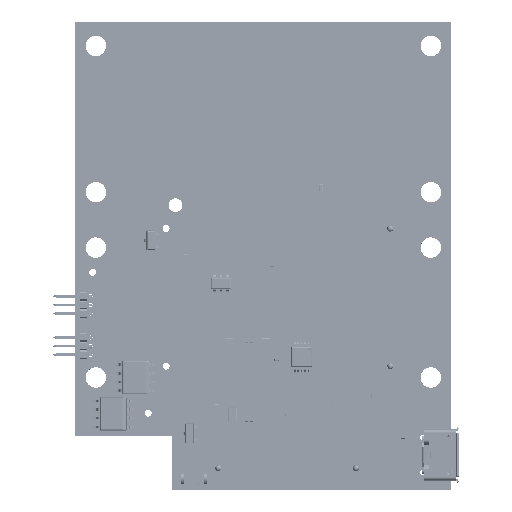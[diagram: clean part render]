
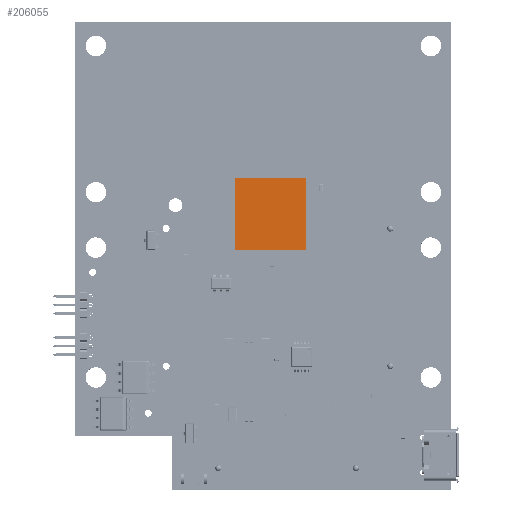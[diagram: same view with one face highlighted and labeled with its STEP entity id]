
A CAD part, top view. The second image highlights one B-rep face of the part: STEP entity #206055.
In plain terms, the highlighted planar face has unit normal (0, 0, 1) as drawn and (0, 1, 0) by its records, which use the part's own axes.
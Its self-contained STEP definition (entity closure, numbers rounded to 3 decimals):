
#205965 = VERTEX_POINT('',#205966);
#205966 = CARTESIAN_POINT('',(-5.2,0.15,-5.2));
#205972 = EDGE_CURVE('',#205965,#205973,#205975,.T.);
#205973 = VERTEX_POINT('',#205974);
#205974 = CARTESIAN_POINT('',(-5.2,0.15,5.2));
#205975 = LINE('',#205976,#205977);
#205976 = CARTESIAN_POINT('',(-5.2,0.15,-5.2));
#205977 = VECTOR('',#205978,1.);
#205978 = DIRECTION('',(0.,0.,1.));
#205996 = VERTEX_POINT('',#205997);
#205997 = CARTESIAN_POINT('',(5.2,0.15,-5.2));
#206003 = EDGE_CURVE('',#205996,#205965,#206004,.T.);
#206004 = LINE('',#206005,#206006);
#206005 = CARTESIAN_POINT('',(5.2,0.15,-5.2));
#206006 = VECTOR('',#206007,1.);
#206007 = DIRECTION('',(-1.,0.,0.));
#206020 = VERTEX_POINT('',#206021);
#206021 = CARTESIAN_POINT('',(5.2,0.15,5.2));
#206027 = EDGE_CURVE('',#206020,#205996,#206028,.T.);
#206028 = LINE('',#206029,#206030);
#206029 = CARTESIAN_POINT('',(5.2,0.15,5.2));
#206030 = VECTOR('',#206031,1.);
#206031 = DIRECTION('',(0.,0.,-1.));
#206044 = EDGE_CURVE('',#205973,#206020,#206045,.T.);
#206045 = LINE('',#206046,#206047);
#206046 = CARTESIAN_POINT('',(-5.2,0.15,5.2));
#206047 = VECTOR('',#206048,1.);
#206048 = DIRECTION('',(1.,0.,0.));
#206055 = ADVANCED_FACE('',(#206056),#206062,.T.);
#206056 = FACE_BOUND('',#206057,.F.);
#206057 = EDGE_LOOP('',(#206058,#206059,#206060,#206061));
#206058 = ORIENTED_EDGE('',*,*,#205972,.F.);
#206059 = ORIENTED_EDGE('',*,*,#206003,.F.);
#206060 = ORIENTED_EDGE('',*,*,#206027,.F.);
#206061 = ORIENTED_EDGE('',*,*,#206044,.F.);
#206062 = PLANE('',#206063);
#206063 = AXIS2_PLACEMENT_3D('',#206064,#206065,#206066);
#206064 = CARTESIAN_POINT('',(0.,0.15,0.));
#206065 = DIRECTION('',(0.,1.,0.));
#206066 = DIRECTION('',(1.,0.,0.));
